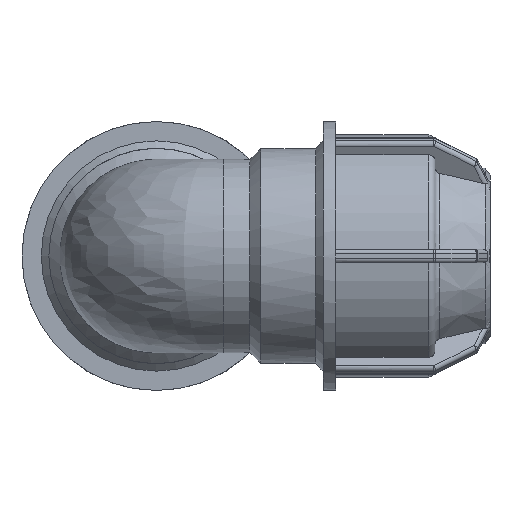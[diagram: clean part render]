
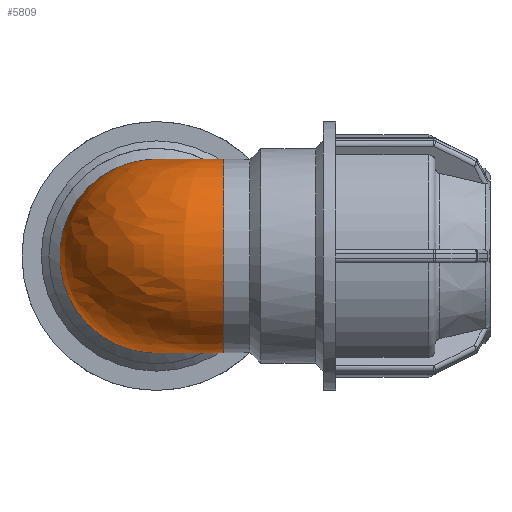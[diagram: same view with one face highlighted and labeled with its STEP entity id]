
A CAD part, front view. The second image highlights one B-rep face of the part: STEP entity #5809.
In plain terms, the highlighted free-form (B-spline) face has degree [2, 2] with [7, 3] control points.
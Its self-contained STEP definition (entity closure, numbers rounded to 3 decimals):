
#1374=FACE_OUTER_BOUND('',#1778,.T.);
#1778=EDGE_LOOP('',(#3990,#3991));
#2209=CIRCLE('',#6215,18.);
#2210=CIRCLE('',#6216,18.);
#2549=VERTEX_POINT('',#8837);
#2550=VERTEX_POINT('',#8838);
#3081=EDGE_CURVE('',#2549,#2550,#2209,.T.);
#3082=EDGE_CURVE('',#2550,#2549,#2210,.T.);
#3990=ORIENTED_EDGE('',*,*,#3081,.F.);
#3991=ORIENTED_EDGE('',*,*,#3082,.F.);
#5808=(
BOUNDED_SURFACE()
B_SPLINE_SURFACE(2,2,((#8816,#8817,#8818),(#8819,#8820,#8821),(#8822,#8823,
#8824),(#8825,#8826,#8827),(#8828,#8829,#8830),(#8831,#8832,#8833),(#8834,
#8835,#8836)),.UNSPECIFIED.,.F.,.F.,.F.)
B_SPLINE_SURFACE_WITH_KNOTS((3,2,2,3),(3,3),(-2.34,-0.78,
0.78,2.34),(-3.142,-1.571),
 .UNSPECIFIED.)
GEOMETRIC_REPRESENTATION_ITEM()
RATIONAL_B_SPLINE_SURFACE(((1.,0.707,1.),(0.711,
0.503,0.711),(1.,0.707,1.),(0.711,
0.503,0.711),(1.,0.707,1.),(0.711,
0.503,0.711),(1.,0.707,1.)))
REPRESENTATION_ITEM('')
SURFACE()
);
#5809=ADVANCED_FACE('',(#1374),#5808,.F.);
#6215=AXIS2_PLACEMENT_3D('',#8839,#6963,#6964);
#6216=AXIS2_PLACEMENT_3D('',#8840,#6965,#6966);
#6963=DIRECTION('center_axis',(1.,0.,0.));
#6964=DIRECTION('ref_axis',(0.,0.,-1.));
#6965=DIRECTION('center_axis',(0.,1.,0.));
#6966=DIRECTION('ref_axis',(0.,0.,-1.));
#8816=CARTESIAN_POINT('Ctrl Pts',(12.52,12.52,-12.933));
#8817=CARTESIAN_POINT('Ctrl Pts',(12.52,12.52,-12.933));
#8818=CARTESIAN_POINT('Ctrl Pts',(12.52,12.52,-12.933));
#8819=CARTESIAN_POINT('Ctrl Pts',(-0.274,12.52,-25.318));
#8820=CARTESIAN_POINT('Ctrl Pts',(-0.274,-0.274,
-25.318));
#8821=CARTESIAN_POINT('Ctrl Pts',(12.52,-0.274,-25.318));
#8822=CARTESIAN_POINT('Ctrl Pts',(-12.796,12.52,-12.659));
#8823=CARTESIAN_POINT('Ctrl Pts',(-12.796,-12.796,-12.659));
#8824=CARTESIAN_POINT('Ctrl Pts',(12.52,-12.796,-12.659));
#8825=CARTESIAN_POINT('Ctrl Pts',(-25.319,12.52,0.));
#8826=CARTESIAN_POINT('Ctrl Pts',(-25.319,-25.319,0.));
#8827=CARTESIAN_POINT('Ctrl Pts',(12.52,-25.319,0.));
#8828=CARTESIAN_POINT('Ctrl Pts',(-12.796,12.52,12.659));
#8829=CARTESIAN_POINT('Ctrl Pts',(-12.796,-12.796,12.659));
#8830=CARTESIAN_POINT('Ctrl Pts',(12.52,-12.796,12.659));
#8831=CARTESIAN_POINT('Ctrl Pts',(-0.274,12.52,25.318));
#8832=CARTESIAN_POINT('Ctrl Pts',(-0.274,-0.274,
25.318));
#8833=CARTESIAN_POINT('Ctrl Pts',(12.52,-0.274,25.318));
#8834=CARTESIAN_POINT('Ctrl Pts',(12.52,12.52,12.933));
#8835=CARTESIAN_POINT('Ctrl Pts',(12.52,12.52,12.933));
#8836=CARTESIAN_POINT('Ctrl Pts',(12.52,12.52,12.933));
#8837=CARTESIAN_POINT('',(12.52,12.52,12.933));
#8838=CARTESIAN_POINT('',(12.52,12.52,-12.933));
#8839=CARTESIAN_POINT('Origin',(12.52,0.,0.));
#8840=CARTESIAN_POINT('Origin',(0.,12.52,0.));
